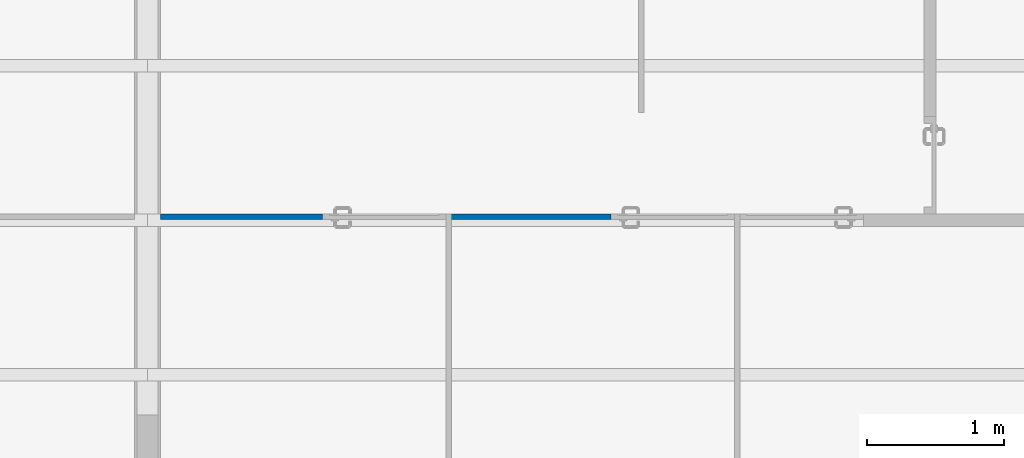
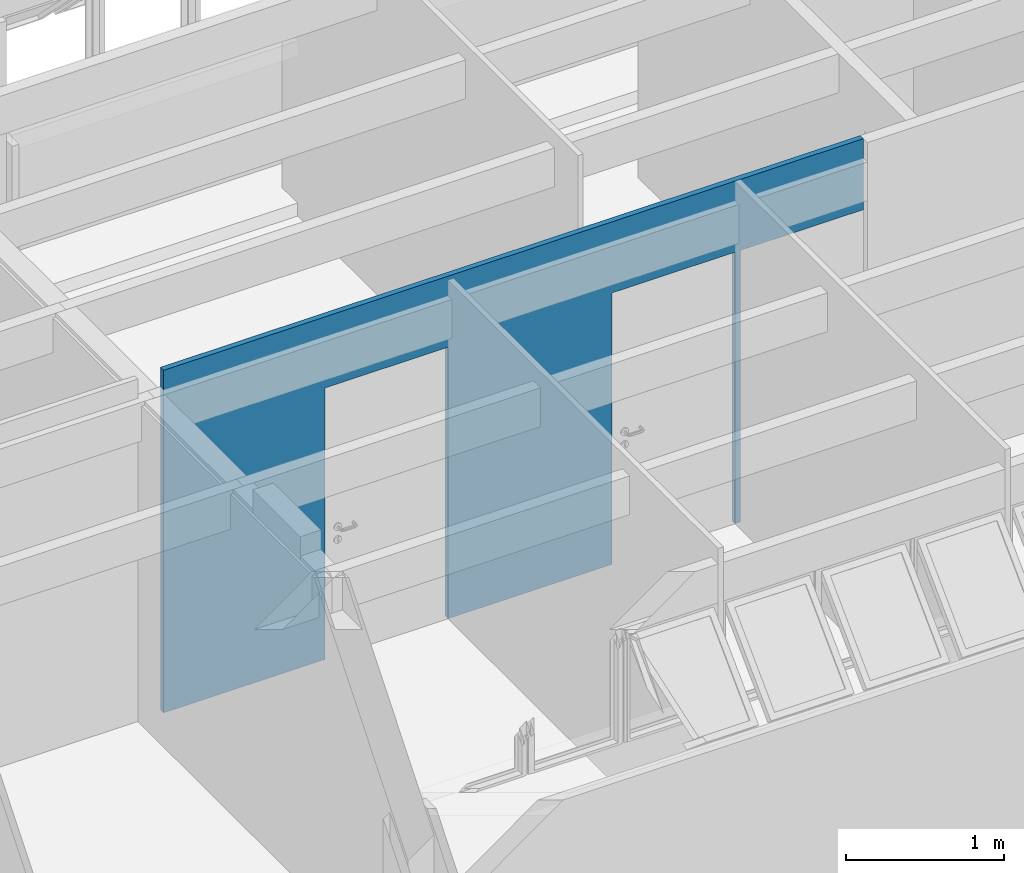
# One storey, part 9 of 38: 1 wall, 3 openings.
"""IFC2X3 building model written with IfcOpenShell, lengths in millimetres."""

import ifcopenshell
import ifcopenshell.guid

model = None  # the IFC model being written
_history = None  # IfcOwnerHistory: only IFC2X3 demands one
_inside = {}  # id of a spatial element -> (the spatial element, [elements in it])
_under = {}  # id of a project, library or spatial element -> (it, [spatial elements below it])
_declared = {}  # id of a project -> (the project, [libraries it declares])
_typed = {}  # id of a type object -> (the type object, [elements of that type])
_made_of = {}  # id of a material, layer set ... -> (it, [elements and type objects made of it])


def new_model(schema):
    """Start an empty IFC model of exactly this schema.

    Asked for "IFC4X3", IfcOpenShell would pick the latest addendum, in which some entities
    have other attributes; the version numbers below select the first issue.
    IFC2X3 requires an IfcOwnerHistory on every rooted entity: one is made here for all.
    """
    global model, _history
    if schema == "IFC4X3":
        model = ifcopenshell.file(schema_version=(4, 3, 0, 0))
    else:
        model = ifcopenshell.file(schema=schema)
    _inside.clear()
    _under.clear()
    _declared.clear()
    _typed.clear()
    _made_of.clear()
    _history = None
    if model.schema == "IFC2X3":
        org = make("IfcOrganization", Name="unknown")
        user = make(
            "IfcPersonAndOrganization",
            ThePerson=make("IfcPerson", FamilyName="unknown"),
            TheOrganization=org,
        )
        app = make(
            "IfcApplication",
            ApplicationDeveloper=org,
            Version="unknown",
            ApplicationFullName="unknown",
            ApplicationIdentifier="unknown",
        )
        _history = make(
            "IfcOwnerHistory",
            OwningUser=user,
            OwningApplication=app,
            ChangeAction="ADDED",
            CreationDate=0,
        )
    return model


def make(cls, **values):
    """One entity of the class cls with the attributes given. An attribute that is None is left unset."""
    return model.create_entity(
        cls, **{name: value for name, value in values.items() if value is not None}
    )


def entity(cls, *values):
    """Any entity or typed value of the class cls, its attributes in the order of the schema. None: left unset."""
    e = model.create_entity(cls)
    for i, value in enumerate(values):
        if value is not None:
            e[i] = value
    return e


def rooted(cls, **values):
    """An entity with a GlobalId (a new one), such as an element, a storey or a relation."""
    return make(cls, GlobalId=ifcopenshell.guid.new(), OwnerHistory=_history, **values)


def si_unit(unit_type, name, prefix=None):
    """IfcSIUnit, for example si_unit("LENGTHUNIT", "METRE", prefix="MILLI")."""
    return make("IfcSIUnit", UnitType=unit_type, Prefix=prefix, Name=name)


def converted_unit(unit_type, name, factor, base, dimensions=None, offset=None):
    """IfcConversionBasedUnit, such as the inch: factor (a typed value) times the base unit."""
    return make(
        "IfcConversionBasedUnit"
        if offset is None
        else "IfcConversionBasedUnitWithOffset",
        ConversionOffset=offset,
        Dimensions=None
        if dimensions is None
        else entity("IfcDimensionalExponents", *dimensions),
        UnitType=unit_type,
        Name=name,
        ConversionFactor=make(
            "IfcMeasureWithUnit", ValueComponent=factor, UnitComponent=base
        ),
    )


def derived_unit(unit_type, elements):
    """IfcDerivedUnit: a product of units, each with its exponent."""
    return make(
        "IfcDerivedUnit",
        Elements=[
            make("IfcDerivedUnitElement", Unit=unit, Exponent=power)
            for unit, power in elements
        ],
        UnitType=unit_type,
    )


def money_unit(currency):
    """IfcMonetaryUnit."""
    return make("IfcMonetaryUnit", Currency=currency)


def assignment(units):
    """IfcUnitAssignment: the units of a project."""
    return None if units is None else make("IfcUnitAssignment", Units=units)


def point(xyz):
    """IfcCartesianPoint."""
    return None if xyz is None else make("IfcCartesianPoint", Coordinates=xyz)


def direction(xyz):
    """IfcDirection."""
    return None if xyz is None else make("IfcDirection", DirectionRatios=xyz)


def frame(location, z_axis=None, x_axis=None):
    """IfcAxis2Placement3D, a coordinate frame: its origin and axes. An axis left out is left unset."""
    return make(
        "IfcAxis2Placement3D",
        Location=point(location),
        Axis=direction(z_axis),
        RefDirection=direction(x_axis),
    )


def frame_2d(location, x_axis=None):
    """IfcAxis2Placement2D, a coordinate frame in the plane: its origin and x axis."""
    return make(
        "IfcAxis2Placement2D", Location=point(location), RefDirection=direction(x_axis)
    )


def origin_with_axes():
    """The frame at (0, 0, 0) with the z axis (0, 0, 1) and the x axis (1, 0, 0) written out."""
    return frame((0.0, 0.0, 0.0), z_axis=(0.0, 0.0, 1.0), x_axis=(1.0, 0.0, 0.0))


def origin_2d_with_axis():
    """The frame at (0, 0) in the plane with the x axis (1, 0) written out."""
    return frame_2d((0.0, 0.0), x_axis=(1.0, 0.0))


def place(relative_to, where):
    """IfcLocalPlacement: puts the frame where relative to a parent placement (None: the world)."""
    return make(
        "IfcLocalPlacement", PlacementRelTo=relative_to, RelativePlacement=where
    )


def context(
    kind, dimensions, precision=None, world=None, true_north=None, identifier=None
):
    """IfcGeometricRepresentationContext, for example the 3D "Model" context."""
    return make(
        "IfcGeometricRepresentationContext",
        ContextIdentifier=identifier,
        ContextType=kind,
        CoordinateSpaceDimension=dimensions,
        Precision=precision,
        WorldCoordinateSystem=world,
        TrueNorth=true_north,
    )


def subcontext(parent, identifier, kind, view, scale=None):
    """IfcGeometricRepresentationSubContext, for example "Body" below "Model"."""
    return make(
        "IfcGeometricRepresentationSubContext",
        ContextIdentifier=identifier,
        ContextType=kind,
        ParentContext=parent,
        TargetScale=scale,
        TargetView=view,
    )


def project(units=None, contexts=None):
    """IfcProject with its units and contexts."""
    return rooted(
        "IfcProject",
        Name="project",
        RepresentationContexts=contexts,
        UnitsInContext=assignment(units),
    )


def spatial(cls, under=None, at=None, **own):
    """A site, building, storey or space (cls), placed at a placement, below another one or the project."""
    s = rooted(cls, ObjectPlacement=at, **own)
    if under is not None:
        _under.setdefault(under.id(), (under, []))[1].append(s)
    return s


def polyline(points):
    """IfcPolyline through the points."""
    return make("IfcPolyline", Points=[point(p) for p in points])


def profile(cls, at=None, kind="AREA", **sizes):
    """A parametric profile (cls). Its sizes go by their IFC names, for example OverallWidth=200.0."""
    return make(cls, ProfileType=kind, Position=at, **sizes)


def rectangle(**sizes):
    """IfcRectangleProfileDef."""
    return profile("IfcRectangleProfileDef", **sizes)


def outline(outer, holes=None, kind="AREA"):
    """IfcArbitraryClosedProfileDef: a profile drawn as a closed curve; with holes, ...WithVoids."""
    if holes is None:
        return make("IfcArbitraryClosedProfileDef", ProfileType=kind, OuterCurve=outer)
    return make(
        "IfcArbitraryProfileDefWithVoids",
        ProfileType=kind,
        OuterCurve=outer,
        InnerCurves=holes,
    )


def extrude(swept, where, along, depth):
    """IfcExtrudedAreaSolid: the profile swept, set in the frame where, extruded along a direction by depth."""
    return make(
        "IfcExtrudedAreaSolid",
        SweptArea=swept,
        Position=where,
        ExtrudedDirection=direction(along),
        Depth=depth,
    )


def shape(context_of_items, identifier, shape_type, items):
    """IfcShapeRepresentation: the items that make up one representation, for example the "Body"."""
    return make(
        "IfcShapeRepresentation",
        ContextOfItems=context_of_items,
        RepresentationIdentifier=identifier,
        RepresentationType=shape_type,
        Items=items,
    )


def material(Name=None, Category=None):
    """IfcMaterial."""
    return make("IfcMaterial", Name=Name, Category=Category)


def layer(
    of_material, thickness, ventilated=None, Name=None, Category=None, Priority=None
):
    """IfcMaterialLayer: one layer of a wall or slab, of a material (None: an air gap)."""
    return make(
        "IfcMaterialLayer",
        Material=of_material,
        LayerThickness=thickness,
        IsVentilated=ventilated,
        Name=Name,
        Category=Category,
        Priority=Priority,
    )


def layer_set(layers, Name=None):
    """IfcMaterialLayerSet."""
    return make("IfcMaterialLayerSet", MaterialLayers=layers, LayerSetName=Name)


def layer_usage(for_layer_set, set_direction, sense, offset, extent=None):
    """IfcMaterialLayerSetUsage: how a layer set lies in its element."""
    return make(
        "IfcMaterialLayerSetUsage",
        ForLayerSet=for_layer_set,
        LayerSetDirection=set_direction,
        DirectionSense=sense,
        OffsetFromReferenceLine=offset,
        ReferenceExtent=extent,
    )


def made_of(thing, what):
    """Note that an element or type object is made of a material, layer set ...; save() writes the relation."""
    if what is not None:
        _made_of.setdefault(what.id(), (what, []))[1].append(thing)
    return thing


def type_object(cls, material=None, **own):
    """A type object (cls), such as IfcWallType, which elements share."""
    return made_of(rooted(cls, **own), material)


def element(
    cls,
    number,
    at=None,
    inside=None,
    cuts=None,
    type_object=None,
    material=None,
    context=None,
    identifier="Body",
    shape_type=None,
    held_by="IfcProductDefinitionShape",
    body=None,
    shapes=None,
    **own,
):
    """One element of the class cls, such as IfcWall. Its Tag is "e" and its number.

    at: its placement. inside: the storey or other place that contains it. cuts: it is an
    opening in that element (IfcRelVoidsElement). A single representation is given by context,
    identifier, shape_type and body (its items); several are given by shapes. held_by: the class
    of the entity that holds the representations. save() writes the other relations.
    """
    e = rooted(cls, Tag="e%d" % number, ObjectPlacement=at, **own)
    if body is not None:
        shapes = [shape(context, identifier, shape_type, body)]
    if shapes is not None:
        e.Representation = make(held_by, Representations=shapes)
    if inside is not None:
        _inside.setdefault(inside.id(), (inside, []))[1].append(e)
    if cuts is not None:
        rooted(
            "IfcRelVoidsElement", RelatingBuildingElement=cuts, RelatedOpeningElement=e
        )
    if type_object is not None:
        _typed.setdefault(type_object.id(), (type_object, []))[1].append(e)
    return made_of(e, material)


def aggregate(whole, parts):
    """IfcRelAggregates: a whole, such as a stair, and the parts it consists of."""
    return rooted("IfcRelAggregates", RelatingObject=whole, RelatedObjects=parts)


def save(model, path):
    """Write the relations noted so far, then the file.

    IfcRelAggregates (storeys below a building ...), IfcRelContainedInSpatialStructure (elements
    in a storey), IfcRelDefinesByType, IfcRelAssociatesMaterial and IfcRelDeclares: one each for
    every whole, place, type object, material and project.
    """
    for whole, parts in _under.values():
        aggregate(whole, parts)
    for where, things in _inside.values():
        rooted(
            "IfcRelContainedInSpatialStructure",
            RelatedElements=things,
            RelatingStructure=where,
        )
    for kind, things in _typed.values():
        rooted("IfcRelDefinesByType", RelatedObjects=things, RelatingType=kind)
    for what, things in _made_of.values():
        rooted("IfcRelAssociatesMaterial", RelatedObjects=things, RelatingMaterial=what)
    for by, libraries in _declared.values():
        rooted("IfcRelDeclares", RelatingContext=by, RelatedDefinitions=libraries)
    model.write(path)


model = new_model("IFC2X3")

# Units and contexts
model_context = context("Model", 3, precision=0.01, world=origin_with_axes(), true_north=direction((0.0, 1.0)))
body_context = subcontext(model_context, "Body", "Model", "MODEL_VIEW")
ifc_project = project(units=[si_unit("LENGTHUNIT", "METRE", prefix="MILLI"), si_unit("AREAUNIT", "SQUARE_METRE"), si_unit("VOLUMEUNIT", "CUBIC_METRE"), converted_unit("PLANEANGLEUNIT", "DEGREE", entity("IfcPlaneAngleMeasure", 0.0174532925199), si_unit("PLANEANGLEUNIT", "RADIAN"), dimensions=[0, 0, 0, 0, 0, 0, 0]), money_unit("USD"), converted_unit("TIMEUNIT", "Year", entity("IfcTimeMeasure", 31556926.0), si_unit("TIMEUNIT", "SECOND"), dimensions=[0, 0, 1, 0, 0, 0, 0]), si_unit("MASSUNIT", "GRAM", prefix="KILO"), si_unit("THERMODYNAMICTEMPERATUREUNIT", "DEGREE_CELSIUS"), si_unit("LUMINOUSINTENSITYUNIT", "LUMEN"), si_unit("ENERGYUNIT", "JOULE", prefix="MEGA"), derived_unit("THERMALCONDUCTANCEUNIT", [(si_unit("POWERUNIT", "WATT"), 1), (si_unit("LENGTHUNIT", "METRE"), -1), (si_unit("THERMODYNAMICTEMPERATUREUNIT", "KELVIN"), -1)]), derived_unit("SPECIFICHEATCAPACITYUNIT", [(si_unit("ENERGYUNIT", "JOULE"), 1), (si_unit("MASSUNIT", "GRAM", prefix="KILO"), -1), (si_unit("THERMODYNAMICTEMPERATUREUNIT", "KELVIN"), -1)]), derived_unit("MASSDENSITYUNIT", [(si_unit("MASSUNIT", "GRAM", prefix="KILO"), 1), (si_unit("VOLUMEUNIT", "CUBIC_METRE"), -1)])], contexts=[model_context])

# Site, building, storey
site_placement = place(None, origin_with_axes())
site = spatial("IfcSite", under=ifc_project, at=site_placement, Name="Local", CompositionType="ELEMENT")
building_placement = place(site_placement, origin_with_axes())
building = spatial("IfcBuilding", under=site, at=building_placement, Name="Construção", CompositionType="ELEMENT")
storey_placement = place(building_placement, frame((0.0, 0.0, 2650.0), z_axis=(0.0, 0.0, 1.0), x_axis=(1.0, 0.0, 0.0)))
storey = spatial("IfcBuildingStorey", under=building, at=storey_placement, Name="Segundo Pavimento", CompositionType="ELEMENT", Elevation=2650.0)

# Wall, openings
ifc_material = material(Name="GENÉRICO - VEDAÇÃO EXTERNA")
ifc_layer = layer(ifc_material, 40.0, ventilated="UNKNOWN")
ifc_layer_set = layer_set([ifc_layer], Name="GENÉRICO - VEDAÇÃO EXTERNA 40")
ifc_layer_usage = layer_usage(ifc_layer_set, "AXIS2", "POSITIVE", 0.0)
wall_type = type_object("IfcWallType", Name="GENÉRICO - VEDAÇÃO EXTERNA 40", PredefinedType="NOTDEFINED")
wall_placement = place(storey_placement, frame((12600.0, 3765.2195667, 0.0), z_axis=(0.0, 0.0, 1.0), x_axis=(-0.99999999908, -4.28841203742e-05, 0.0)))
wall = element("IfcWallStandardCase", 1, at=wall_placement, inside=storey, type_object=wall_type, material=ifc_layer_usage, Name="APTO6-PAREDE-006", context=body_context, shape_type="SweptSolid", body=[
    extrude(outline(polyline([(0.0, 0.0), (5120.00000471, 0.0), (5120.00172007, 40.0), (0.000857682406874, 40.0), (0.0, 0.0)])), origin_with_axes(), (0.0, 0.0, 1.0), 2650.0),
])
opening_1_placement = place(wall_placement, frame((1390.00000471, 0.0, 0.0), z_axis=(0.0, 0.0, 1.0), x_axis=(1.0, 0.0, 0.0)))
element("IfcOpeningElement", 2, at=opening_1_placement, cuts=wall, Name="APTO6-PORTA-002", context=body_context, shape_type="SweptSolid", body=[
    extrude(rectangle(XDim=900.0, YDim=2100.0, at=origin_2d_with_axis()), frame((0.0, 40.0, 1050.0), z_axis=(0.0, 1.0, 0.0), x_axis=(-1.0, 0.0, 0.0)), (0.0, 0.0, -1.0), 120.0),
])
opening_2_placement = place(wall_placement, frame((450.000004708, 0.0, 0.0), z_axis=(0.0, 0.0, 1.0), x_axis=(1.0, 0.0, 0.0)))
element("IfcOpeningElement", 3, at=opening_2_placement, cuts=wall, Name="APTO6-PORTA-001", context=body_context, shape_type="SweptSolid", body=[
    extrude(rectangle(XDim=900.0, YDim=2100.0, at=origin_2d_with_axis()), frame((0.0, 40.0, 1050.0), z_axis=(0.0, -1.0, 0.0), x_axis=(1.0, 0.0, 0.0)), (0.0, 0.0, 1.0), 120.0),
])
opening_3_placement = place(wall_placement, frame((3490.00000471, 0.0, 0.0), z_axis=(0.0, 0.0, 1.0), x_axis=(1.0, 0.0, 0.0)))
element("IfcOpeningElement", 4, at=opening_3_placement, cuts=wall, Name="APTO6-PORTA-000", context=body_context, shape_type="SweptSolid", body=[
    extrude(rectangle(XDim=900.0, YDim=2100.0, at=origin_2d_with_axis()), frame((0.0, 40.0, 1050.0), z_axis=(0.0, 1.0, 0.0), x_axis=(-1.0, 0.0, 0.0)), (0.0, 0.0, -1.0), 120.0),
])

save(model, "model.ifc")
